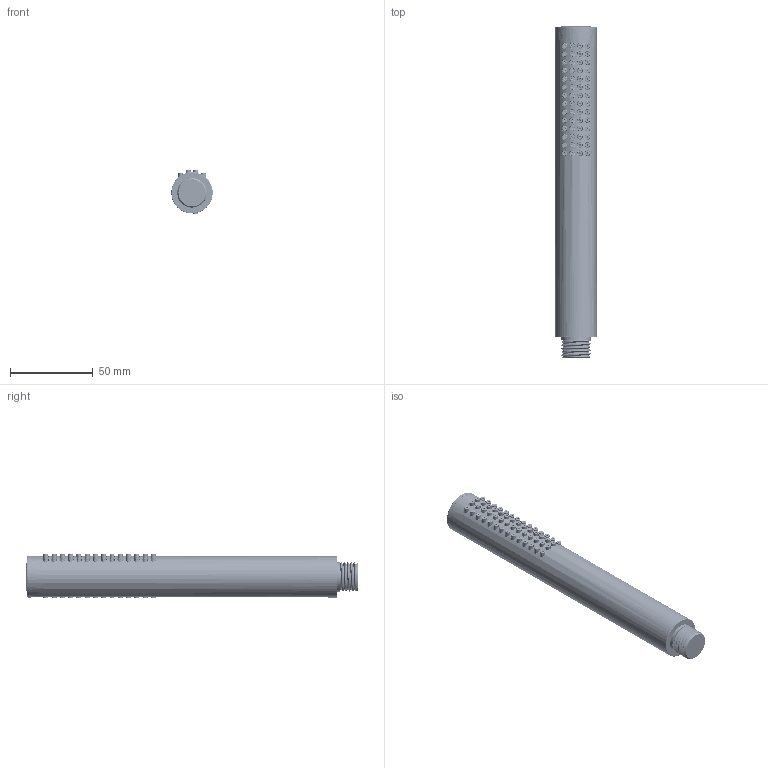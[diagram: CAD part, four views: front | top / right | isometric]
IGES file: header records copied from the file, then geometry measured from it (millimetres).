
Global section: file name: 5901867772671_igs; native system: Autodesk Inventor 2020; preprocessor: unknown; date: 20200727.140806; units: millimetre
Bounding box: 25 x 200.69 x 27 mm (x, y, z)
Surface area: 44859.8 mm2 (no closed solid volume)
Topology: 0 solids, 0 shells, 858 faces, 15601 edges, 15249 vertices
Faces by surface type: bspline 583, revolution 275
